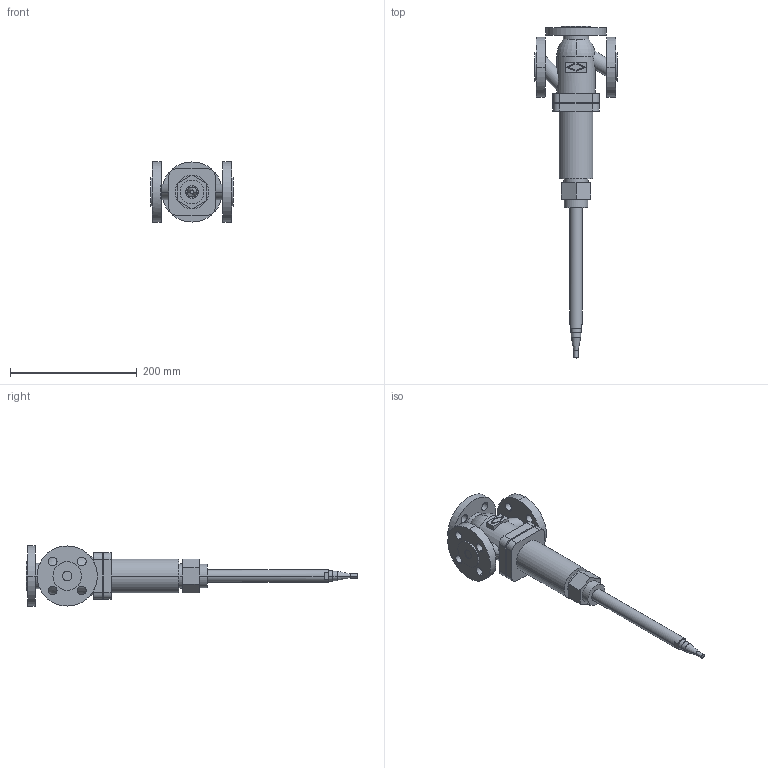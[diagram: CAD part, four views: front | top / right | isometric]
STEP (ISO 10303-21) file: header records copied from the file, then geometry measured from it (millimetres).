
FILE_DESCRIPTION(('CoCreate Modeling STEP Export'),'2;1');
FILE_NAME('c000004726.stp','2011-09-23T12:30:33',(''),(''),'CoCreate Modeling STEP processor for AP214 (Solid Model)','CoCreate Modeling 17.0 01-Apr-2010 (C) Parametric Technology GmbH','');
FILE_SCHEMA(('AUTOMOTIVE_DESIGN { 1 0 10303 214 1 1 1 1 }'));
Length unit declared in the file: millimetre
Products named in the file (1): 1
Bounding box: 130 x 524.04 x 95 mm (x, y, z)
Volume: 1051507 mm3; surface area: 136738.1 mm2
Topology: 1 solids, 1 shells, 139 faces, 340 edges, 225 vertices
Faces by surface type: cylinder 74, plane 61, torus 2, cone 2
Entity records: 4934 total; most frequent: CARTESIAN_POINT 749, ORIENTED_EDGE 680, DIRECTION 558, EDGE_CURVE 340, VERTEX_POINT 225, AXIS2_PLACEMENT_3D 193, EDGE_LOOP 185, VECTOR 172
